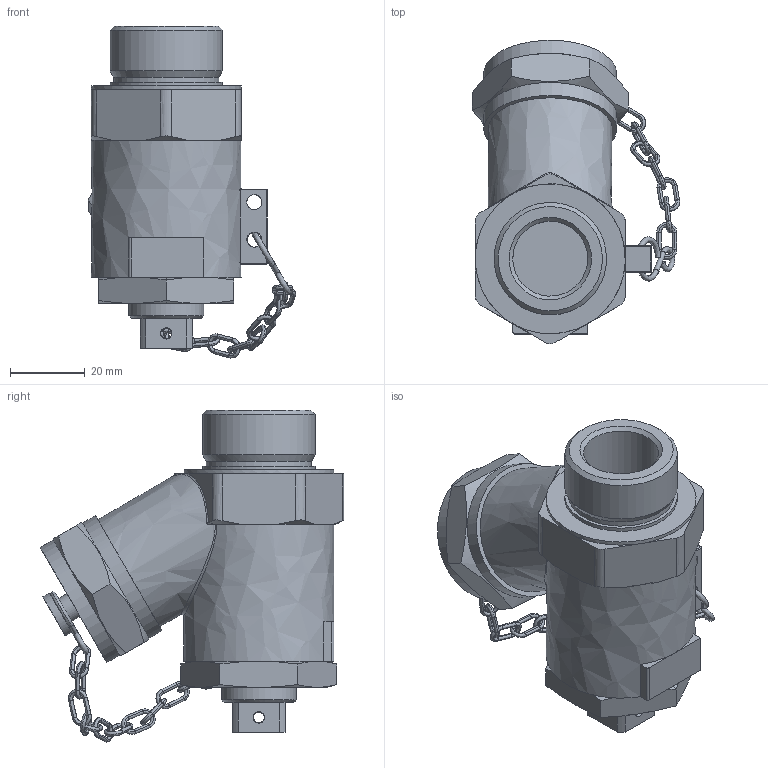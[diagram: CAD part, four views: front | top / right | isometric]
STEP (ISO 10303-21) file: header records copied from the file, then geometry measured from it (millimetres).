
FILE_DESCRIPTION((''),'2;1');
FILE_NAME('U:\Users\r.stiegele\12568800(327359)_1.stp', '2013-10-14T15:01:38',('User'),('SDRC'),'I-DEAS Master Series 9','UNIX', 'Yes');
FILE_SCHEMA(('AUTOMOTIVE_DESIGN { 1 0 10303 214 1 1 1 1 }'));
Length unit declared in the file: millimetre
Products named in the file (1): 12568800(327359)
Bounding box: 55.29 x 80.92 x 88.56 mm (x, y, z)
Volume: 118730.8 mm3; surface area: 20337.1 mm2
Topology: 4 solids, 4 shells, 359 faces, 840 edges, 475 vertices
Faces by surface type: bspline 359
Entity records: 13887 total; most frequent: CARTESIAN_POINT 9299, ORIENTED_EDGE 1664, EDGE_CURVE 832, VERTEX_POINT 466, EDGE_LOOP 380, FACE_OUTER_BOUND 359, ADVANCED_FACE 359, B_SPLINE_CURVE_WITH_KNOTS 260
